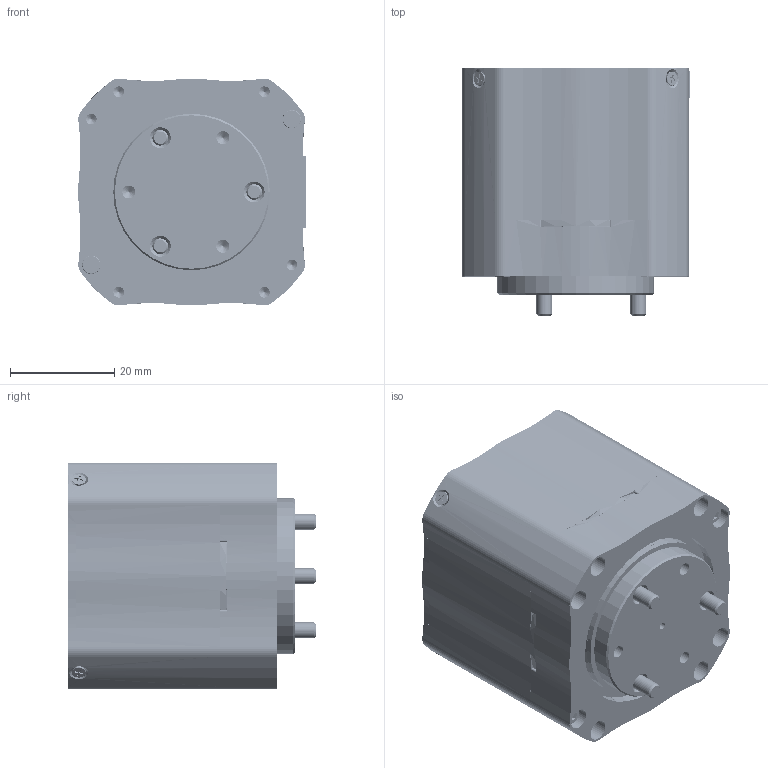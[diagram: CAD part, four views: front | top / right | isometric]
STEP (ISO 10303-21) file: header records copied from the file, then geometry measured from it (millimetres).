
FILE_DESCRIPTION (( 'STEP AP203' ), '1' );
FILE_NAME ('4538-0527.STEP', '2024-07-26T08:17:25', ( 'China' ), ( 'Microsoft' ), 'SwSTEP 2.0', 'SolidWorks 2022', '' );
FILE_SCHEMA (( 'CONFIG_CONTROL_DESIGN' ));
Length unit declared in the file: millimetre
Products named in the file (12): 2内齿4438; 内六角圆柱头螺钉_3.5头_M2.5×8; 30374; 输出盘4438; 正装轴承座4438; 4538-0527; 配重4438; 沉头十字_M2锁电板螺丝1_D_k=2.6mm,L=3mm; 销3-7; 3D_双编-4438（功率升级）_2024-04-11; 外壳4438-0415; 0423电机盖4438端子版
Assembly tree (17 placements, depth 2):
  4538-0527
    外壳4438-0415
    正装轴承座4438
    2内齿4438
    30374
    输出盘4438
    0423电机盖4438端子版
    配重4438
    3D_双编-4438（功率升级）_2024-04-11
    沉头十字_M2锁电板螺丝1_D_k=2.6mm,L=3mm  x4
    内六角圆柱头螺钉_3.5头_M2.5×8  x2
    销3-7  x3
Bounding box: 43.67 x 47.4 x 43.5 mm (x, y, z)
Volume: 43594.5 mm3; surface area: 41618.4 mm2
Topology: 93 solids, 93 shells, 14144 faces, 37033 edges, 23663 vertices
Faces by surface type: plane 7377, bspline 3690, cylinder 2260, sphere 394, torus 270, cone 153
Entity records: 480483 total; most frequent: CARTESIAN_POINT 160206, ORIENTED_EDGE 72890, DIRECTION 53286, EDGE_CURVE 36445, VERTEX_POINT 23488, VECTOR 23460, LINE 23460, EDGE_LOOP 15007
